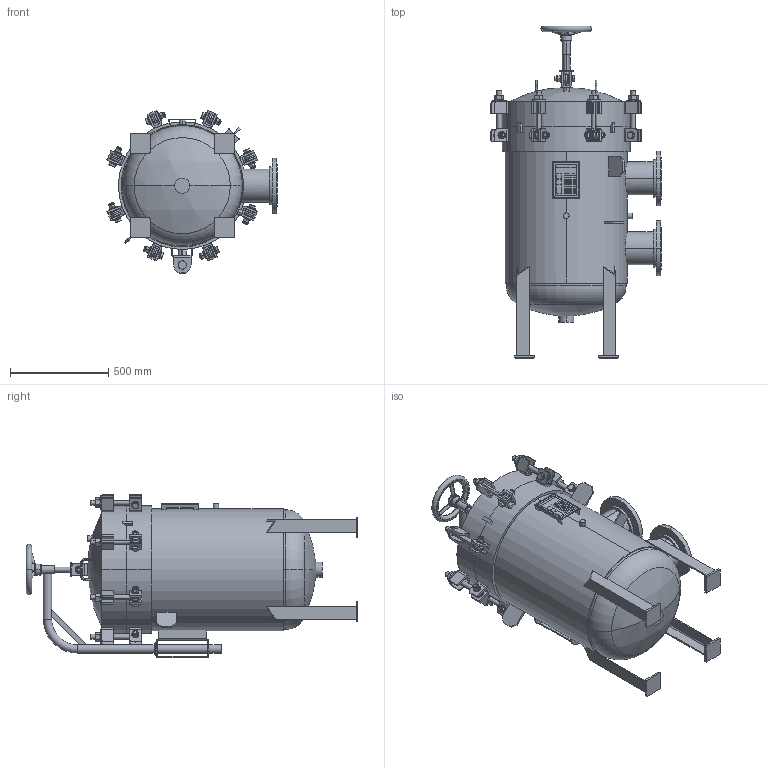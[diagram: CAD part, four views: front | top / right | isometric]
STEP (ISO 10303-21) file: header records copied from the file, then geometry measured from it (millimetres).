
FILE_DESCRIPTION (( 'STEP AP203' ), '1' );
FILE_NAME ('002004-01305.step', '2026-01-06T16:40:58', ( '' ), ( '' ), 'SwSTEP 2.0', 'SolidWorks 2023', '' );
FILE_SCHEMA (( 'CONFIG_CONTROL_DESIGN' ));
Length unit declared in the file: inch
Products named in the file (1): 002004-01305
Bounding box: 866.32 x 1690.83 x 832.24 mm (x, y, z)
Volume: 126053167.3 mm3; surface area: 7779809.8 mm2
Topology: 35 solids, 35 shells, 1762 faces, 4185 edges, 2617 vertices
Faces by surface type: plane 758, cylinder 506, cone 354, torus 82, bspline 48, sphere 14
Entity records: 58877 total; most frequent: CARTESIAN_POINT 18461, DIRECTION 8497, ORIENTED_EDGE 8346, EDGE_CURVE 4173, AXIS2_PLACEMENT_3D 3359, VERTEX_POINT 2617, EDGE_LOOP 1938, LINE 1779
